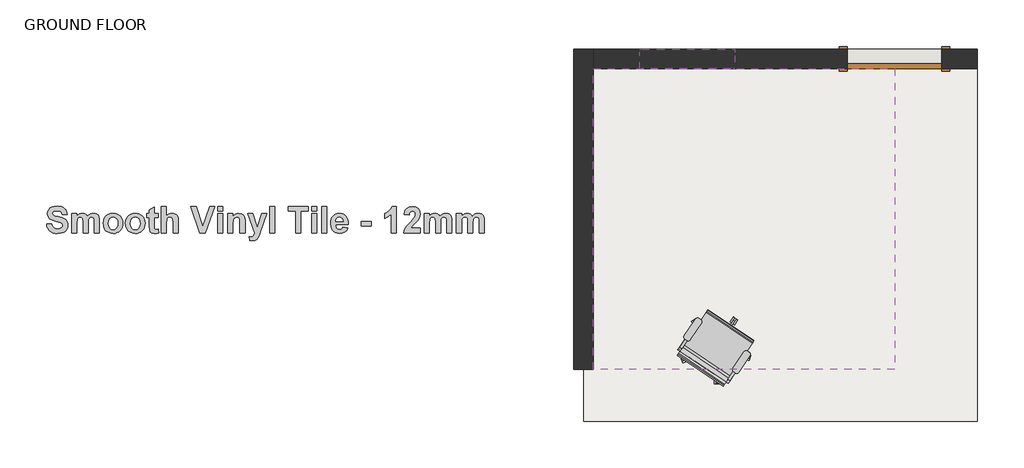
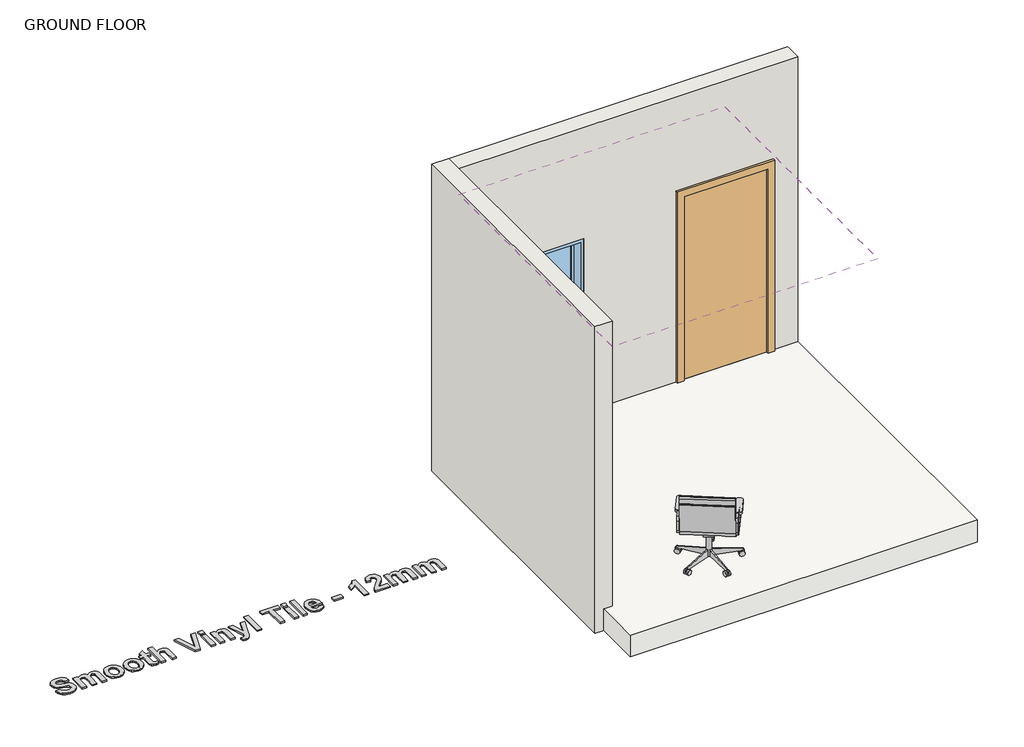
# One storey, incomplete: 2 walls, 1 covering, 1 door, 1 furniture element, 1 proxy, 1 slab, 1 window.
"""IFC4 building model written with IfcOpenShell, lengths in millimetres."""

from ifc_helpers import new_model, si_unit, frame, origin, origin_with_axes, place, context, project, spatial, polyline, outline, extrude, faceted_brep, transform, mapped, element, save
from components import m_single_flush_0915_x_2134mm_f5238887, chair_task_arms_chair_task_arms_8395c10b, m_fixed_0915_x_0610mm_e83bb20a

model = new_model("IFC4")

# Units and contexts
model_context = context("Model", 3, world=origin())
ifc_project = project(units=[si_unit("LENGTHUNIT", "METRE", prefix="MILLI")], contexts=[model_context])

# Site, building, storey
site = spatial("IfcSite", under=ifc_project)
building = spatial("IfcBuilding", under=site)
storey = spatial("IfcBuildingStorey", under=building, Name="GROUND FLOOR", Elevation=0.0)

# Proxy
placement = place(None, origin())
element("IfcBuildingElementProxy", 1, Name="600mm Arial", ObjectType="600mm Arial", at=placement, inside=storey, context=model_context, shape_type="SweptSolid", body=[
    extrude(outline(polyline([(3280.9097687, -8052.2153974), (3329.4935496, -8048.166749), (3336.5786843, -8069.8966042), (3348.4715891, -8084.9841455), (3365.2513389, -8093.8089338), (3386.9970091, -8096.7505299), (3409.565061, -8094.148957), (3425.7754697, -8086.3442383), (3435.54916, -8075.0602124), (3438.8070568, -8062.0207178), (3433.3983155, -8046.8066562), (3414.4519061, -8035.8942835), (3372.3206586, -8025.076801), (3336.3572739, -8013.8955728), (3312.9826553, -8000.2155694), (3295.0009629, -7976.920026), (3289.0070655, -7949.038123), (3291.7588812, -7930.249864), (3300.0143284, -7912.7268076), (3313.4571063, -7897.8448617), (3331.7709143, -7886.9799341), (3354.6552669, -7880.3376203), (3381.8096783, -7878.1235157), (3423.774868, -7883.6429621), (3440.3154155, -7890.5422702), (3453.8945981, -7900.2013015), (3464.5559071, -7912.1614201), (3472.3428339, -7925.9639901), (3477.2553785, -7941.6090113), (3479.2935409, -7959.0964839), (3430.7097599, -7959.0964839), (3425.3405563, -7942.4037167), (3416.0650395, -7931.1671359), (3402.0291978, -7924.7857701), (3382.3790195, -7922.6586482), (3361.6929565, -7924.9201979), (3346.0677041, -7931.704847), (3339.7100608, -7938.5053111), (3337.5908464, -7947.2668393), (3339.5202805, -7955.5381015), (3345.3085825, -7962.512531), (3362.1120549, -7970.6809955), (3392.9118314, -7979.1183155), (3425.7833772, -7987.8956588), (3448.8021575, -7997.0841929), (3464.933491, -8008.2100685), (3477.1426964, -8022.7994363), (3484.8288024, -8041.0341692), (3487.3908377, -8063.09614), (3484.3622589, -8084.1617638), (3475.2765225, -8103.8356647), (3460.6476171, -8120.378189), (3440.9895313, -8132.0496833), (3416.088762, -8138.9766677), (3385.7318065, -8141.2856625), (3363.0293268, -8139.8642864), (3343.1261079, -8135.6001582), (3326.0221499, -8128.4932778), (3311.7174527, -8118.5436452), (3300.1131723, -8105.8698733), (3291.1104649, -8090.5905746), (3284.7093303, -8072.7057494), (3280.9097687, -8052.2153974)])), origin_with_axes(), (0.0, 0.0, 1.0), 15.0),
    extrude(outline(polyline([(3523.8286734, -7950.9991871), (3572.4124544, -7950.9991871), (3572.4124544, -7975.9236789), (3584.372573, -7963.24793), (3597.4160213, -7954.1938237), (3611.5427994, -7948.7613599), (3626.7529073, -7946.9505387), (3642.4018823, -7948.7297299), (3655.8209377, -7954.0673035), (3667.0258885, -7963.0107046), (3676.0325497, -7975.6073782), (3688.471073, -7963.0107046), (3701.8743134, -7954.0673035), (3716.2264557, -7948.7297299), (3731.511685, -7946.9505387), (3749.9678283, -7949.0302155), (3765.3558553, -7955.269246), (3777.4701705, -7965.5411098), (3786.1051784, -7979.7192868), (3789.8058961, -7995.2970941), (3791.0394686, -8018.2447068), (3791.0394686, -8137.2370141), (3742.4556877, -8137.2370141), (3742.4556877, -8030.0110913), (3741.2221151, -8007.0634786), (3737.5213974, -7994.0160765), (3729.13943, -7986.0452999), (3717.1516351, -7983.3883744), (3707.4491125, -7984.9777852), (3698.331746, -7989.7460176), (3690.7405302, -7997.5823664), (3685.6164596, -8008.3761263), (3681.7259615, -8047.1545869), (3681.7259615, -8137.2370141), (3633.1421806, -8137.2370141), (3633.1421806, -8034.4393005), (3630.6117753, -7999.1085171), (3622.7991491, -7987.2788725), (3608.4074692, -7983.3883744), (3598.0169926, -7984.9303401), (3588.7335683, -7989.5562372), (3581.2372427, -7997.1000079), (3576.2080623, -8007.3955943), (3572.4124544, -8046.0791647), (3572.4124544, -8137.2370141), (3523.8286734, -8137.2370141), (3523.8286734, -7950.9991871)])), origin_with_axes(), (0.0, 0.0, 1.0), 15.0),
    extrude(outline(polyline([(3827.4773044, -8041.4611751), (3830.4742531, -8017.3669725), (3839.4650993, -7994.0477065), (3853.9437619, -7973.828187), (3873.4041598, -7959.0332238), (3896.6364431, -7949.97121), (3922.4307617, -7946.9505387), (3942.4229401, -7948.662516), (3960.5212683, -7953.7984479), (3976.7257464, -7962.3583345), (3991.0363742, -7974.3421756), (4002.7296141, -7988.9434047), (4011.0819284, -8005.355455), (4016.0933169, -8023.5783267), (4017.7637797, -8043.6120195), (4016.075525, -8063.8058396), (4011.0107607, -8082.1927922), (4002.5694869, -8098.7728773), (3990.7517036, -8113.5460948), (3976.3758387, -8125.6821557), (3960.2603203, -8134.3507706), (3942.4051482, -8139.5519395), (3922.8103224, -8141.2856625), (3898.0360735, -8138.399419), (3874.447952, -8129.7406885), (3854.2047099, -8115.4992514), (3839.4650993, -8095.8648881), (3830.4742531, -8071.0985466), (3827.4773044, -8041.4611751)]), holes=[polyline([(3876.0610853, -8044.1181006), (3879.4217798, -8070.0942921), (3889.5038632, -8089.1909442), (3904.5202369, -8100.9336061), (3922.6838022, -8104.8478268), (3940.8315524, -8100.9336061), (3955.800481, -8089.1909442), (3965.8351193, -8069.9994019), (3969.1799988, -8043.7385398), (3965.8351193, -8018.0470189), (3955.800481, -7999.0452569), (3940.8315524, -7987.302595), (3922.6838022, -7983.3883744), (3904.5202369, -7987.302595), (3889.5038632, -7999.0452569), (3879.4217798, -8018.1419091), (3876.0610853, -8044.1181006)])]), origin_with_axes(), (0.0, 0.0, 1.0), 15.0),
    extrude(outline(polyline([(4042.0556702, -8041.4611751), (4045.0526189, -8017.3669725), (4054.0434651, -7994.0477065), (4068.5221277, -7973.828187), (4087.9825257, -7959.0332238), (4111.2148089, -7949.97121), (4137.0091275, -7946.9505387), (4157.0013059, -7948.662516), (4175.0996342, -7953.7984479), (4191.3041122, -7962.3583345), (4205.6147401, -7974.3421756), (4217.30798, -7988.9434047), (4225.6602942, -8005.355455), (4230.6716828, -8023.5783267), (4232.3421456, -8043.6120195), (4230.6538909, -8063.8058396), (4225.5891266, -8082.1927922), (4217.1478528, -8098.7728773), (4205.3300695, -8113.5460948), (4190.9542046, -8125.6821557), (4174.8386861, -8134.3507706), (4156.983514, -8139.5519395), (4137.3886883, -8141.2856625), (4112.6144393, -8138.399419), (4089.0263178, -8129.7406885), (4068.7830758, -8115.4992514), (4054.0434651, -8095.8648881), (4045.0526189, -8071.0985466), (4042.0556702, -8041.4611751)]), holes=[polyline([(4090.6394512, -8044.1181006), (4094.0001457, -8070.0942921), (4104.0822291, -8089.1909442), (4119.0986028, -8100.9336061), (4137.262168, -8104.8478268), (4155.4099183, -8100.9336061), (4170.3788469, -8089.1909442), (4180.4134852, -8069.9994019), (4183.7583647, -8043.7385398), (4180.4134852, -8018.0470189), (4170.3788469, -7999.0452569), (4155.4099183, -7987.302595), (4137.262168, -7983.3883744), (4119.0986028, -7987.302595), (4104.0822291, -7999.0452569), (4094.0001457, -8018.1419091), (4090.6394512, -8044.1181006)])]), origin_with_axes(), (0.0, 0.0, 1.0), 15.0),
    extrude(outline(polyline([(4357.8502464, -7950.9991871), (4357.8502464, -7987.4370228), (4321.4124107, -7987.4370228), (4321.4124107, -8067.3345688), (4322.519463, -8095.5802175), (4327.5486434, -8102.2225313), (4337.1009233, -8104.8478268), (4359.8745706, -8100.166577), (4361.8988948, -8134.7066088), (4343.1580809, -8139.6408991), (4322.1082721, -8141.2856625), (4297.5633411, -8136.730933), (4281.5268978, -8124.9645486), (4274.410133, -8105.417168), (4272.8286297, -8070.0547545), (4272.8286297, -7987.4370228), (4248.5367393, -7987.4370228), (4248.5367393, -7950.9991871), (4272.8286297, -7950.9991871), (4272.8286297, -7914.5613514), (4321.4124107, -7886.2208125), (4321.4124107, -7950.9991871), (4357.8502464, -7950.9991871)])), origin_with_axes(), (0.0, 0.0, 1.0), 15.0),
    extrude(outline(polyline([(4434.7745662, -7882.1721641), (4434.7745662, -7974.531956), (4446.9798178, -7962.4650859), (4460.3158443, -7953.845893), (4474.7826456, -7948.6743773), (4490.3802218, -7946.9505387), (4506.1952546, -7948.5241345), (4520.3655241, -7953.2449218), (4532.0686484, -7960.4249467), (4540.4822459, -7969.3762553), (4549.7182251, -7991.1061104), (4552.1853702, -8028.0500272), (4552.1853702, -8137.2370141), (4503.6015893, -8137.2370141), (4503.6015893, -8038.1716482), (4500.8814036, -8000.6900203), (4491.2658636, -7988.0696241), (4474.0591079, -7983.3883744), (4462.7988045, -7984.8908025), (4452.8037037, -7989.3980869), (4444.6984994, -7996.9260425), (4439.1078852, -8007.4904845), (4434.7745662, -8043.2957189), (4434.7745662, -8137.2370141), (4386.1907853, -8137.2370141), (4386.1907853, -7882.1721641), (4434.7745662, -7882.1721641)])), origin_with_axes(), (0.0, 0.0, 1.0), 15.0),
    extrude(outline(polyline([(4759.6153412, -8137.2370141), (4673.6448226, -7882.1721641), (4724.885529, -7882.1721641), (4789.0313023, -8072.4586395), (4853.366856, -7882.1721641), (4904.4177821, -7882.1721641), (4813.892534, -8137.2370141), (4759.6153412, -8137.2370141)])), origin_with_axes(), (0.0, 0.0, 1.0), 15.0),
    extrude(outline(polyline([(4932.758321, -7926.7072966), (4932.758321, -7882.1721641), (4981.3421019, -7882.1721641), (4981.3421019, -7926.7072966), (4932.758321, -7926.7072966)])), origin_with_axes(), (0.0, 0.0, 1.0), 15.0),
    extrude(outline(polyline([(4932.758321, -8137.2370141), (4932.758321, -7950.9991871), (4981.3421019, -7950.9991871), (4981.3421019, -8137.2370141), (4932.758321, -8137.2370141)])), origin_with_axes(), (0.0, 0.0, 1.0), 15.0),
    extrude(outline(polyline([(5195.9204678, -8137.2370141), (5147.3366868, -8137.2370141), (5147.3366868, -8041.5244352), (5144.3002005, -8002.1766334), (5134.3683599, -7988.3226647), (5117.8574656, -7983.3883744), (5106.0989887, -7985.1517506), (5095.6215294, -7990.4418791), (5087.3344522, -7998.6498811), (5082.1471214, -8009.166878), (5078.5096638, -8052.2786575), (5078.5096638, -8137.2370141), (5029.9258829, -8137.2370141), (5029.9258829, -7950.9991871), (5078.5096638, -7950.9991871), (5078.5096638, -7977.8214828), (5090.8018981, -7964.3154448), (5104.588653, -7954.6682747), (5119.8699285, -7948.8799727), (5136.6457246, -7946.9505387), (5164.8597433, -7952.8337309), (5184.2173435, -7967.8263821), (5193.3584325, -7988.480815), (5195.9204678, -8021.5974938), (5195.9204678, -8137.2370141)])), origin_with_axes(), (0.0, 0.0, 1.0), 15.0),
    extrude(outline(polyline([(5224.2610067, -7950.9991871), (5272.8447876, -7950.9991871), (5315.355596, -8082.833301), (5357.8664043, -7950.9991871), (5406.4501852, -7950.9991871), (5343.4430943, -8129.4560179), (5331.73997, -8162.6043268), (5320.194996, -8186.2003558), (5307.5745998, -8199.4217233), (5290.0199133, -8207.2976097), (5266.5187745, -8210.1126855), (5240.4556003, -8207.3292397), (5236.4069519, -8171.3342249), (5255.701292, -8173.6748498), (5269.4682781, -8171.1049069), (5279.1391707, -8163.3950784), (5290.810665, -8137.2370141), (5224.2610067, -7950.9991871)])), origin_with_axes(), (0.0, 0.0, 1.0), 15.0),
    extrude(outline(polyline([(5434.7907241, -8137.2370141), (5434.7907241, -7882.1721641), (5483.3745051, -7882.1721641), (5483.3745051, -8137.2370141), (5434.7907241, -8137.2370141)])), origin_with_axes(), (0.0, 0.0, 1.0), 15.0),
    extrude(outline(polyline([(5685.8069257, -8137.2370141), (5685.8069257, -7926.7072966), (5612.9312543, -7926.7072966), (5612.9312543, -7882.1721641), (5807.2663781, -7882.1721641), (5807.2663781, -7926.7072966), (5734.3907067, -7926.7072966), (5734.3907067, -8137.2370141), (5685.8069257, -8137.2370141)])), origin_with_axes(), (0.0, 0.0, 1.0), 15.0),
    extrude(outline(polyline([(5839.6555654, -7926.7072966), (5839.6555654, -7882.1721641), (5888.2393463, -7882.1721641), (5888.2393463, -7926.7072966), (5839.6555654, -7926.7072966)])), origin_with_axes(), (0.0, 0.0, 1.0), 15.0),
    extrude(outline(polyline([(5839.6555654, -8137.2370141), (5839.6555654, -7950.9991871), (5888.2393463, -7950.9991871), (5888.2393463, -8137.2370141), (5839.6555654, -8137.2370141)])), origin_with_axes(), (0.0, 0.0, 1.0), 15.0),
    extrude(outline(polyline([(5936.8231273, -8137.2370141), (5936.8231273, -7882.1721641), (5985.4069082, -7882.1721641), (5985.4069082, -8137.2370141), (5936.8231273, -8137.2370141)])), origin_with_axes(), (0.0, 0.0, 1.0), 15.0),
    extrude(outline(polyline([(6139.2555479, -8080.5559363), (6187.8393289, -8088.6532331), (6176.0096843, -8111.3240827), (6158.8661887, -8127.8428846), (6136.5828074, -8137.924968), (6109.3335057, -8141.2856625), (6087.3308413, -8139.3048296), (6068.3883857, -8133.362331), (6052.5061389, -8123.4581667), (6039.684101, -8109.5923366), (6026.3045832, -8080.888052), (6021.8447439, -8045.5098235), (6023.3234495, -8023.6692631), (6027.7595662, -8004.3274779), (6035.1530941, -7987.4844679), (6045.5040331, -7973.1402331), (6058.1165218, -7961.6822418), (6072.2946988, -7953.4979623), (6088.038564, -7948.5873946), (6105.3481175, -7946.9505387), (6124.5831512, -7948.6308859), (6141.6752479, -7953.6719277), (6156.6244078, -7962.0736639), (6169.4306306, -7973.8360945), (6179.6352806, -7989.069925), (6186.7797217, -8007.8858603), (6190.8639539, -8030.2839006), (6191.8879773, -8056.2640458), (6070.4285249, -8056.2640458), (6073.5440864, -8076.7286983), (6081.8786087, -8092.0692802), (6094.1668892, -8101.6531901), (6109.1437253, -8104.8478268), (6119.3444215, -8103.4086588), (6127.8054641, -8099.0911548), (6134.463593, -8091.5790142), (6139.2555479, -8080.5559363)]), holes=[polyline([(6143.3041963, -8027.9235069), (6140.3467852, -8008.7161495), (6132.4867138, -7994.743568), (6121.0682601, -7986.2271728), (6107.4357018, -7983.3883744), (6093.0440219, -7986.3774156), (6081.3725276, -7995.3445392), (6073.7180517, -8009.4989937), (6071.2509066, -8027.9235069), (6143.3041963, -8027.9235069)])]), origin_with_axes(), (0.0, 0.0, 1.0), 15.0),
    extrude(outline(polyline([(6317.3960781, -8068.4099911), (6317.3960781, -8023.8748585), (6414.56364, -8023.8748585), (6414.56364, -8068.4099911), (6317.3960781, -8068.4099911)])), origin_with_axes(), (0.0, 0.0, 1.0), 15.0),
    extrude(outline(polyline([(6653.4338963, -8137.2370141), (6604.8501154, -8137.2370141), (6604.8501154, -7954.9213152), (6576.7942471, -7978.8020149), (6544.1203892, -7995.5343196), (6544.1203892, -7946.9505387), (6563.5886946, -7937.8648023), (6584.6701334, -7923.1330992), (6603.1262768, -7904.1155222), (6614.7186959, -7882.1721641), (6653.4338963, -7882.1721641), (6653.4338963, -8137.2370141)])), origin_with_axes(), (0.0, 0.0, 1.0), 15.0),
    extrude(outline(polyline([(6888.2555042, -8088.6532331), (6888.2555042, -8137.2370141), (6726.3095677, -8137.2370141), (6731.4810835, -8112.7316207), (6741.8082999, -8089.570505), (6760.9919348, -8063.3887181), (6792.7327057, -8029.8213109), (6830.3092238, -7989.0817862), (6837.3310984, -7974.3738057), (6839.6717233, -7959.8556055), (6837.7027517, -7945.7090586), (6831.7958369, -7935.2790444), (6822.4254299, -7928.8502336), (6810.0659818, -7926.7072966), (6797.7935163, -7928.8186035), (6788.3044965, -7935.1525242), (6781.9152233, -7946.37329), (6778.9419971, -7963.1451323), (6730.3582161, -7958.7169231), (6738.961594, -7923.5680126), (6746.5844399, -7910.3288532), (6756.4213903, -7899.9798911), (6781.0453965, -7886.6240958), (6811.141404, -7882.1721641), (6843.2775508, -7887.161807), (6867.6959615, -7902.1307356), (6883.1156185, -7924.5169146), (6888.2555042, -7951.7583087), (6882.6253525, -7983.8944554), (6864.7859955, -8015.8408218), (6834.5792827, -8047.7239281), (6806.8397151, -8075.3686055), (6797.7302561, -8088.6532331), (6888.2555042, -8088.6532331)])), origin_with_axes(), (0.0, 0.0, 1.0), 15.0),
    extrude(outline(polyline([(6924.6933399, -7950.9991871), (6973.2771209, -7950.9991871), (6973.2771209, -7975.9236789), (6985.2372395, -7963.24793), (6998.2806878, -7954.1938237), (7012.4074659, -7948.7613599), (7027.6175738, -7946.9505387), (7043.2665488, -7948.7297299), (7056.6856042, -7954.0673035), (7067.890555, -7963.0107046), (7076.8972162, -7975.6073782), (7089.3357395, -7963.0107046), (7102.7389799, -7954.0673035), (7117.0911222, -7948.7297299), (7132.3763515, -7946.9505387), (7150.8324948, -7949.0302155), (7166.2205218, -7955.269246), (7178.334837, -7965.5411098), (7186.9698449, -7979.7192868), (7190.6705626, -7995.2970941), (7191.9041352, -8018.2447068), (7191.9041352, -8137.2370141), (7143.3203542, -8137.2370141), (7143.3203542, -8030.0110913), (7142.0867817, -8007.0634786), (7138.386064, -7994.0160765), (7130.0040965, -7986.0452999), (7118.0163016, -7983.3883744), (7108.313779, -7984.9777852), (7099.1964125, -7989.7460176), (7091.6051968, -7997.5823664), (7086.4811261, -8008.3761263), (7082.590628, -8047.1545869), (7082.590628, -8137.2370141), (7034.0068471, -8137.2370141), (7034.0068471, -8034.4393005), (7031.4764418, -7999.1085171), (7023.6638156, -7987.2788725), (7009.2721357, -7983.3883744), (6998.8816591, -7984.9303401), (6989.5982348, -7989.5562372), (6982.1019092, -7997.1000079), (6977.0727288, -8007.3955943), (6973.2771209, -8046.0791647), (6973.2771209, -8137.2370141), (6924.6933399, -8137.2370141), (6924.6933399, -7950.9991871)])), origin_with_axes(), (0.0, 0.0, 1.0), 15.0),
    extrude(outline(polyline([(7236.4392677, -7950.9991871), (7285.0230487, -7950.9991871), (7285.0230487, -7975.9236789), (7296.9831673, -7963.24793), (7310.0266156, -7954.1938237), (7324.1533937, -7948.7613599), (7339.3635016, -7946.9505387), (7355.0124766, -7948.7297299), (7368.431532, -7954.0673035), (7379.6364828, -7963.0107046), (7388.643144, -7975.6073782), (7401.0816673, -7963.0107046), (7414.4849077, -7954.0673035), (7428.83705, -7948.7297299), (7444.1222792, -7946.9505387), (7462.5784226, -7949.0302155), (7477.9664496, -7955.269246), (7490.0807647, -7965.5411098), (7498.7157727, -7979.7192868), (7502.4164904, -7995.2970941), (7503.6500629, -8018.2447068), (7503.6500629, -8137.2370141), (7455.066282, -8137.2370141), (7455.066282, -8030.0110913), (7453.8327094, -8007.0634786), (7450.1319917, -7994.0160765), (7441.7500243, -7986.0452999), (7429.7622294, -7983.3883744), (7420.0597067, -7984.9777852), (7410.9423403, -7989.7460176), (7403.3511245, -7997.5823664), (7398.2270539, -8008.3761263), (7394.3365558, -8047.1545869), (7394.3365558, -8137.2370141), (7345.7527748, -8137.2370141), (7345.7527748, -8034.4393005), (7343.2223696, -7999.1085171), (7335.4097434, -7987.2788725), (7321.0180634, -7983.3883744), (7310.6275869, -7984.9303401), (7301.3441626, -7989.5562372), (7293.847837, -7997.1000079), (7288.8186565, -8007.3955943), (7285.0230487, -8046.0791647), (7285.0230487, -8137.2370141), (7236.4392677, -8137.2370141), (7236.4392677, -7950.9991871)])), origin_with_axes(), (0.0, 0.0, 1.0), 15.0),
])

# Covering
element("IfcCovering", 2, ObjectType="Vinyl Suspended Ceiling - Shell White 12mm - 600x600mm", at=placement, inside=storey, context=model_context, shape_type="SweptSolid", body=[
    extrude(outline(polyline([(8558.2778372, -6550.6917524), (11463.2778372, -6550.6917524), (11463.2778372, -9455.6917524), (8558.2778372, -9455.6917524), (8558.2778372, -6550.6917524)])), frame((0.0, 0.0, 3000.0), z_axis=(0.0, 0.0, 1.0), x_axis=(1.0, 0.0, 0.0)), (0.0, 0.0, 1.0), 51.0),
])

# Door
m_single_flush_0915_x_2134mm_shape = m_single_flush_0915_x_2134mm_f5238887(model_context)
element("IfcDoor", 3, ObjectType="M_Single-Flush : 0915 x 2134mm", at=placement, inside=storey, context=model_context, shape_type="MappedRepresentation", body=[
    mapped(m_single_flush_0915_x_2134mm_shape, transform((11463.2778372, -6455.6917524, 0.0), x_axis=(-1.0, 0.0, 0.0), y_axis=(0.0, -1.0, 0.0), z_axis=(0.0, 0.0, 1.0))),
])

# Furniture
chair_task_arms_chair_task_arms_shape = chair_task_arms_chair_task_arms_8395c10b(model_context)
element("IfcFurniture", 4, ObjectType="Chair-Task Arms : Chair-Task Arms", at=placement, inside=storey, context=model_context, shape_type="MappedRepresentation", body=[
    mapped(chair_task_arms_chair_task_arms_shape, transform((9842.4585015, -9343.2695122, 0.0), x_axis=(-0.8290375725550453, 0.5591929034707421, 0.0), y_axis=(-0.5591929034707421, -0.8290375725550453, 0.0), z_axis=(0.0, 0.0, 1.0))),
])

# Slab
element("IfcSlab", 5, ObjectType="Generic Floor - 250mm", at=placement, inside=storey, context=model_context, shape_type="SweptSolid", body=[
    extrude(outline(polyline([(8463.2778372, -6455.6917524), (12263.2778372, -6455.6917524), (12263.2778372, -9955.6917524), (8463.2778372, -9955.6917524), (8463.2778372, -6455.6917524)])), frame((0.0, 0.0, -250.0), z_axis=(0.0, 0.0, 1.0), x_axis=(1.0, 0.0, 0.0)), (0.0, 0.0, 1.0), 250.0),
])

# Walls
element("IfcWall", 6, ObjectType="190mm MAXI BLOCK- plastered", at=placement, inside=storey, context=model_context, shape_type="Brep", body=[
    faceted_brep([(8558.2778372, -9455.6917524, -250.0), (8558.2778372, -6550.6917524, -250.0), (8558.2778372, -6360.6917524, -250.0), (8558.2778372, -6360.6917524, 3300.0), (8558.2778372, -6550.6917524, 3300.0), (8558.2778372, -9455.6917524, 3300.0), (8368.2778372, -9455.6917524, -250.0), (8368.2778372, -9455.6917524, 3300.0), (8368.2778372, -6360.6917524, 3300.0), (8368.2778372, -6360.6917524, -250.0)], [[[0, 1, 2, 3, 4, 5]], [[6, 7, 8, 9]], [[2, 1, 0, 6, 9]], [[5, 4, 3, 8, 7]], [[0, 5, 7, 6]], [[3, 2, 9, 8]]]),
])
element("IfcWall", 7, ObjectType="190mm MAXI BLOCK- plastered", at=placement, inside=storey, context=model_context, shape_type="SweptSolid", body=[
    extrude(outline(polyline([(-250.0, 8558.2778372), (-250.0, 12263.2778372), (3300.0, 12263.2778372), (3300.0, 8558.2778372), (-250.0, 8558.2778372)]), holes=[polyline([(0.0, 11920.7778372), (0.0, 11005.7778372), (2134.0, 11005.7778372), (2134.0, 11920.7778372), (0.0, 11920.7778372)]), polyline([(1400.0, 9005.7778372), (2010.0, 9005.7778372), (2010.0, 9920.7778372), (1400.0, 9920.7778372), (1400.0, 9005.7778372)])]), frame((0.0, -6550.6917524, 0.0), z_axis=(0.0, 1.0, 0.0), x_axis=(0.0, 0.0, 1.0)), (0.0, 0.0, 1.0), 190.0),
])

# Window
m_fixed_0915_x_0610mm_shape = m_fixed_0915_x_0610mm_e83bb20a(model_context)
element("IfcWindow", 8, ObjectType="M_Fixed : 0915 x 0610mm", at=placement, inside=storey, context=model_context, shape_type="MappedRepresentation", body=[
    mapped(m_fixed_0915_x_0610mm_shape, transform((9463.2778372, -6468.6917524, 485.0), x_axis=(1.0, 0.0, 0.0), y_axis=(0.0, 1.0, 0.0), z_axis=(0.0, 0.0, 1.0))),
])

save(model, "model.ifc")
